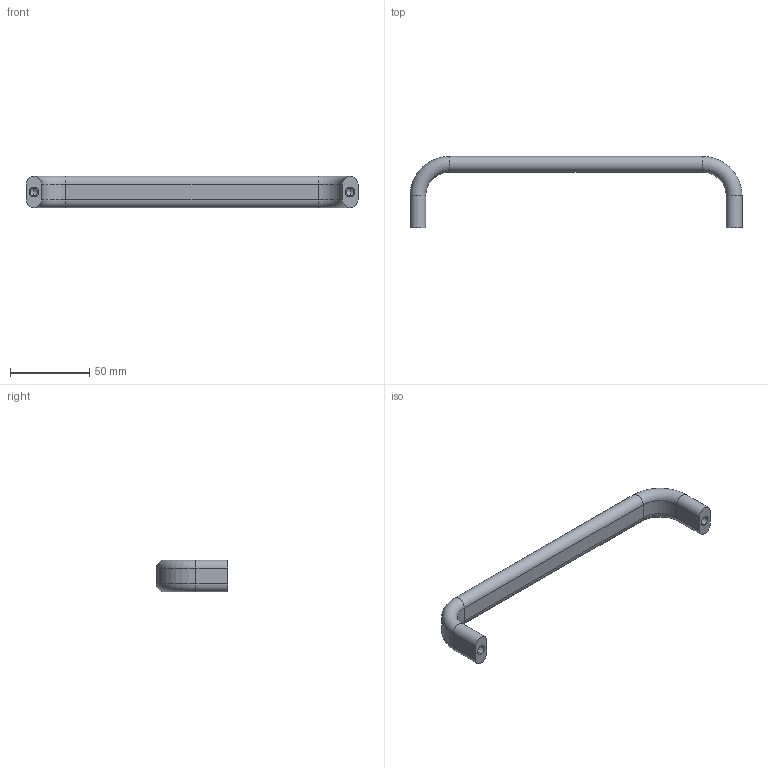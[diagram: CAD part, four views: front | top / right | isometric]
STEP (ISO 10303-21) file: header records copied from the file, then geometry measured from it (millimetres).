
FILE_DESCRIPTION (( 'STEP AP203' ), '1' );
FILE_NAME ('7803.W200-1.step', '2010-02-11T18:09:08', ( 'Wixroyd' ), ( 'Wixroyd' ), 'SwSTEP 2.0', 'SolidWorks 2009', '' );
FILE_SCHEMA (( 'CONFIG_CONTROL_DESIGN' ));
Length unit declared in the file: millimetre
Products named in the file (1): 7803.W200-1
Bounding box: 210 x 45 x 20 mm (x, y, z)
Volume: 46071.4 mm3; surface area: 14455 mm2
Topology: 1 solids, 1 shells, 38 faces, 82 edges, 46 vertices
Faces by surface type: cylinder 20, plane 10, cone 4, torus 4
Entity records: 1075 total; most frequent: DIRECTION 196, CARTESIAN_POINT 163, ORIENTED_EDGE 156, AXIS2_PLACEMENT_3D 79, EDGE_CURVE 78, VERTEX_POINT 46, EDGE_LOOP 42, CIRCLE 40
